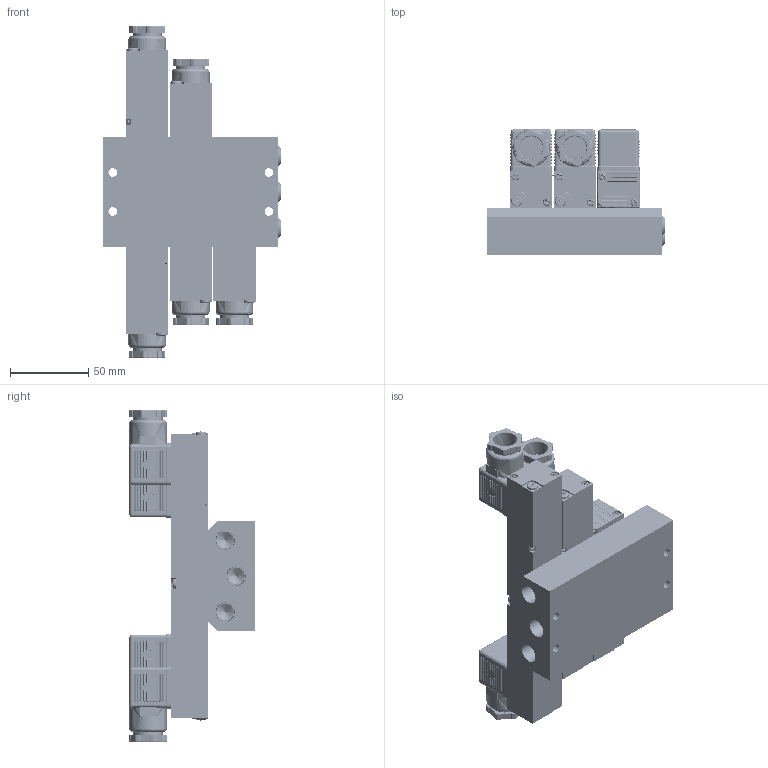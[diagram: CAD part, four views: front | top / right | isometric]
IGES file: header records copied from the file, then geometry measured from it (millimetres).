
Start section: SolidWorks IGES file using analytic representation for surfaces
Global section: file name: D:\Custom\3D繪製\PC\PC06\MFB#-PC06-02-C.IGS,1; native system: 5HSolidWorks 2014; preprocessor: SolidWorks 2014; author: Chieh_Lu; date: 150821.142424; units: millimetre
Bounding box: 113.51 x 80.64 x 212.7 mm (x, y, z)
Surface area: 148575.1 mm2 (no closed solid volume)
Topology: 0 solids, 0 shells, 3588 faces, 28547 edges, 27798 vertices
Faces by surface type: revolution 2057, bspline 1531
